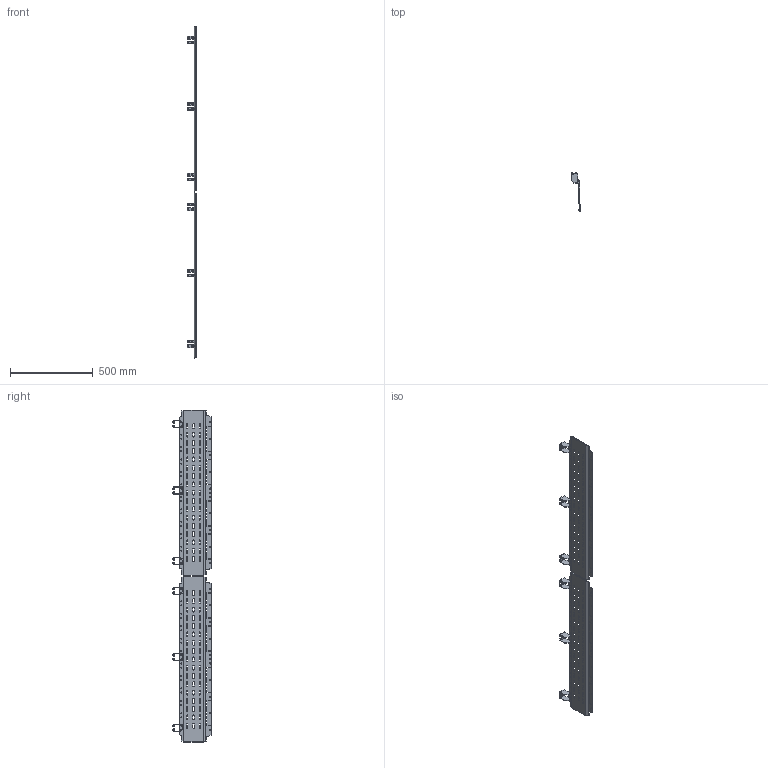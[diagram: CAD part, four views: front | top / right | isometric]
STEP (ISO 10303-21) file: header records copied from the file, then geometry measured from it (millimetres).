
FILE_DESCRIPTION (( 'STEP AP214' ), '1' );
FILE_NAME ('FO-00-SWB-020-200 Ïåðåãîðîäêà ñåêöèîíèðîâàíèÿ âñòðîåííîãî îòñåêà 200õ2000 ìì.STEP', '2025-08-13T07:21:22', ( '' ), ( '' ), 'SwSTEP 2.0', 'SolidWorks 2023', '' );
FILE_SCHEMA (( 'AUTOMOTIVE_DESIGN' ));
Length unit declared in the file: millimetre
Products named in the file (2): FO-00-SWB-020-200 Перегородка секционирования встроенного отсека 200х2000 мм; Перегородка секционирования встроенного отсека 200х2000 мм
Assembly tree (2 placements, depth 2):
  FO-00-SWB-020-200 Перегородка секционирования встроенного отсека 200х2000 мм
    Перегородка секционирования встроенного отсека 200х2000 мм  x2
Bounding box: 57.84 x 236.5 x 2000.55 mm (x, y, z)
Volume: 624956.9 mm3; surface area: 821193.7 mm2
Topology: 2 solids, 8 shells, 1952 faces, 5464 edges, 3582 vertices
Faces by surface type: plane 924, cylinder 872, torus 60, cone 60, sphere 36
Entity records: 32270 total; most frequent: CARTESIAN_POINT 6107, ORIENTED_EDGE 5464, DIRECTION 5385, EDGE_CURVE 2732, AXIS2_PLACEMENT_3D 1825, VERTEX_POINT 1791, LINE 1735, VECTOR 1735
